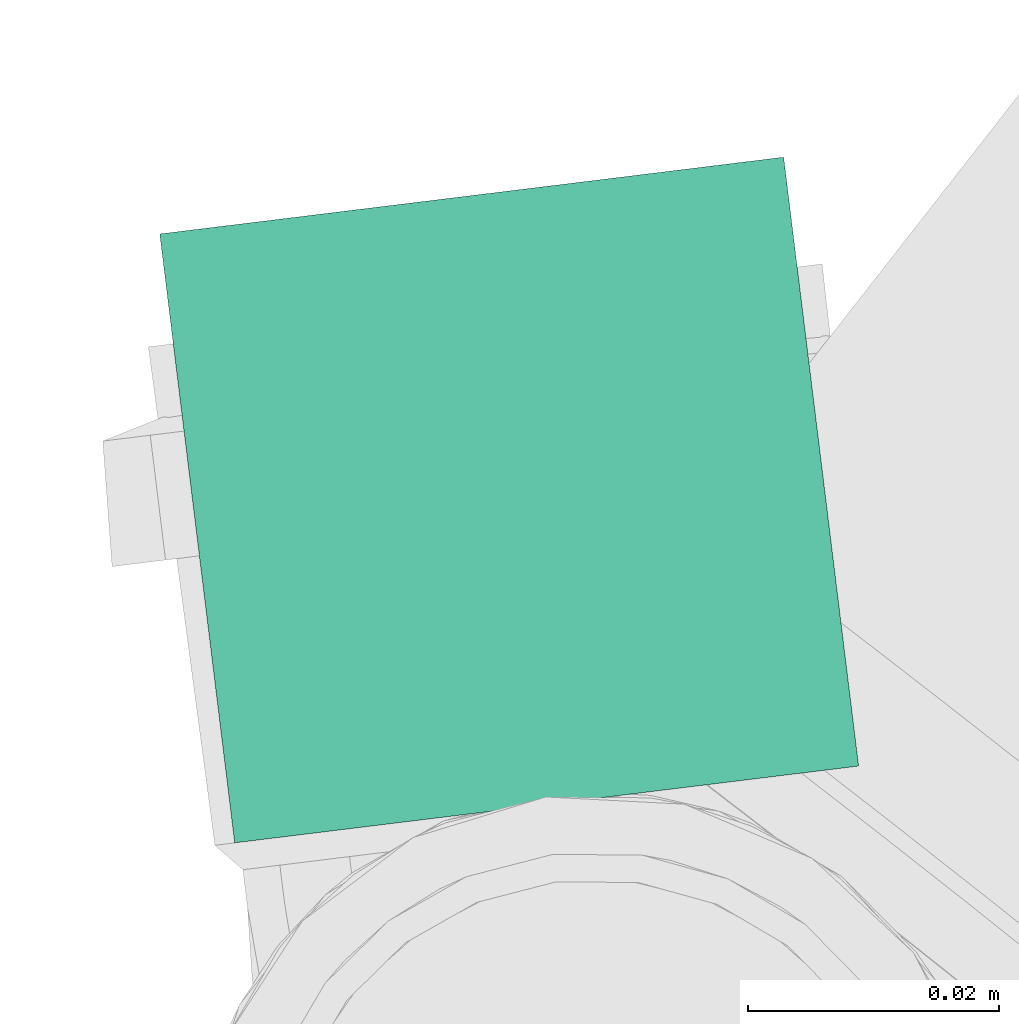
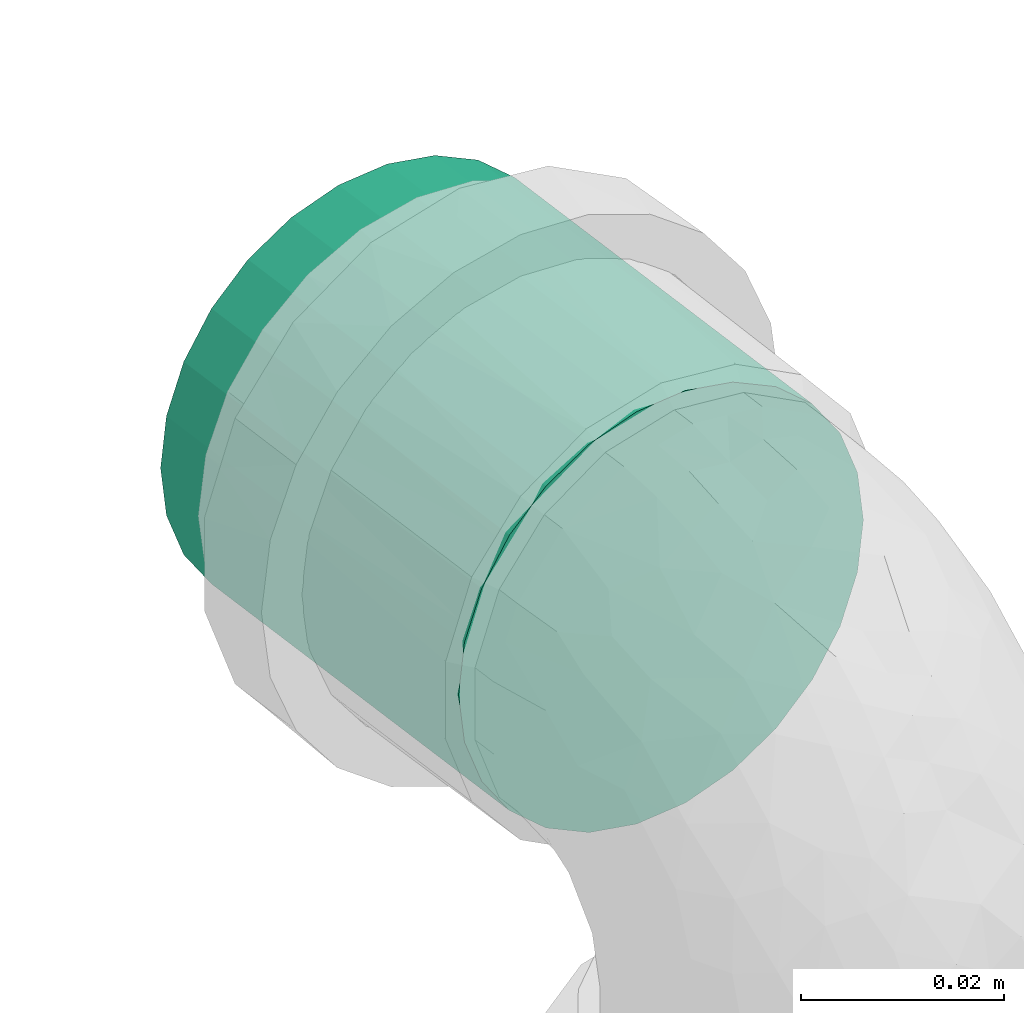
# One storey, part 78 of 97: 1 flow segment.
"""IFC2X3 building model written with IfcOpenShell, lengths in centimetres."""

import ifcopenshell
import ifcopenshell.guid

model = None  # the IFC model being written
_history = None  # IfcOwnerHistory: only IFC2X3 demands one
_inside = {}  # id of a spatial element -> (the spatial element, [elements in it])
_under = {}  # id of a project, library or spatial element -> (it, [spatial elements below it])
_declared = {}  # id of a project -> (the project, [libraries it declares])
_typed = {}  # id of a type object -> (the type object, [elements of that type])
_made_of = {}  # id of a material, layer set ... -> (it, [elements and type objects made of it])


def new_model(schema):
    """Start an empty IFC model of exactly this schema.

    Asked for "IFC4X3", IfcOpenShell would pick the latest addendum, in which some entities
    have other attributes; the version numbers below select the first issue.
    IFC2X3 requires an IfcOwnerHistory on every rooted entity: one is made here for all.
    """
    global model, _history
    if schema == "IFC4X3":
        model = ifcopenshell.file(schema_version=(4, 3, 0, 0))
    else:
        model = ifcopenshell.file(schema=schema)
    _inside.clear()
    _under.clear()
    _declared.clear()
    _typed.clear()
    _made_of.clear()
    _history = None
    if model.schema == "IFC2X3":
        org = make("IfcOrganization", Name="unknown")
        user = make(
            "IfcPersonAndOrganization",
            ThePerson=make("IfcPerson", FamilyName="unknown"),
            TheOrganization=org,
        )
        app = make(
            "IfcApplication",
            ApplicationDeveloper=org,
            Version="unknown",
            ApplicationFullName="unknown",
            ApplicationIdentifier="unknown",
        )
        _history = make(
            "IfcOwnerHistory",
            OwningUser=user,
            OwningApplication=app,
            ChangeAction="ADDED",
            CreationDate=0,
        )
    return model


def make(cls, **values):
    """One entity of the class cls with the attributes given. An attribute that is None is left unset."""
    return model.create_entity(
        cls, **{name: value for name, value in values.items() if value is not None}
    )


def entity(cls, *values):
    """Any entity or typed value of the class cls, its attributes in the order of the schema. None: left unset."""
    e = model.create_entity(cls)
    for i, value in enumerate(values):
        if value is not None:
            e[i] = value
    return e


def rooted(cls, **values):
    """An entity with a GlobalId (a new one), such as an element, a storey or a relation."""
    return make(cls, GlobalId=ifcopenshell.guid.new(), OwnerHistory=_history, **values)


def si_unit(unit_type, name, prefix=None):
    """IfcSIUnit, for example si_unit("LENGTHUNIT", "METRE", prefix="MILLI")."""
    return make("IfcSIUnit", UnitType=unit_type, Prefix=prefix, Name=name)


def converted_unit(unit_type, name, factor, base, dimensions=None, offset=None):
    """IfcConversionBasedUnit, such as the inch: factor (a typed value) times the base unit."""
    return make(
        "IfcConversionBasedUnit"
        if offset is None
        else "IfcConversionBasedUnitWithOffset",
        ConversionOffset=offset,
        Dimensions=None
        if dimensions is None
        else entity("IfcDimensionalExponents", *dimensions),
        UnitType=unit_type,
        Name=name,
        ConversionFactor=make(
            "IfcMeasureWithUnit", ValueComponent=factor, UnitComponent=base
        ),
    )


def derived_unit(unit_type, elements):
    """IfcDerivedUnit: a product of units, each with its exponent."""
    return make(
        "IfcDerivedUnit",
        Elements=[
            make("IfcDerivedUnitElement", Unit=unit, Exponent=power)
            for unit, power in elements
        ],
        UnitType=unit_type,
    )


def assignment(units):
    """IfcUnitAssignment: the units of a project."""
    return None if units is None else make("IfcUnitAssignment", Units=units)


def point(xyz):
    """IfcCartesianPoint."""
    return None if xyz is None else make("IfcCartesianPoint", Coordinates=xyz)


def direction(xyz):
    """IfcDirection."""
    return None if xyz is None else make("IfcDirection", DirectionRatios=xyz)


def frame(location, z_axis=None, x_axis=None):
    """IfcAxis2Placement3D, a coordinate frame: its origin and axes. An axis left out is left unset."""
    return make(
        "IfcAxis2Placement3D",
        Location=point(location),
        Axis=direction(z_axis),
        RefDirection=direction(x_axis),
    )


def frame_2d(location, x_axis=None):
    """IfcAxis2Placement2D, a coordinate frame in the plane: its origin and x axis."""
    return make(
        "IfcAxis2Placement2D", Location=point(location), RefDirection=direction(x_axis)
    )


def origin():
    """The frame at (0, 0, 0) with its axes left unset."""
    return frame((0.0, 0.0, 0.0))


def origin_2d_with_axis():
    """The frame at (0, 0) in the plane with the x axis (1, 0) written out."""
    return frame_2d((0.0, 0.0), x_axis=(1.0, 0.0))


def place(relative_to, where):
    """IfcLocalPlacement: puts the frame where relative to a parent placement (None: the world)."""
    return make(
        "IfcLocalPlacement", PlacementRelTo=relative_to, RelativePlacement=where
    )


def context(
    kind, dimensions, precision=None, world=None, true_north=None, identifier=None
):
    """IfcGeometricRepresentationContext, for example the 3D "Model" context."""
    return make(
        "IfcGeometricRepresentationContext",
        ContextIdentifier=identifier,
        ContextType=kind,
        CoordinateSpaceDimension=dimensions,
        Precision=precision,
        WorldCoordinateSystem=world,
        TrueNorth=true_north,
    )


def subcontext(parent, identifier, kind, view, scale=None):
    """IfcGeometricRepresentationSubContext, for example "Body" below "Model"."""
    return make(
        "IfcGeometricRepresentationSubContext",
        ContextIdentifier=identifier,
        ContextType=kind,
        ParentContext=parent,
        TargetScale=scale,
        TargetView=view,
    )


def project(units=None, contexts=None):
    """IfcProject with its units and contexts."""
    return rooted(
        "IfcProject",
        Name="project",
        RepresentationContexts=contexts,
        UnitsInContext=assignment(units),
    )


def spatial(cls, under=None, at=None, **own):
    """A site, building, storey or space (cls), placed at a placement, below another one or the project."""
    s = rooted(cls, ObjectPlacement=at, **own)
    if under is not None:
        _under.setdefault(under.id(), (under, []))[1].append(s)
    return s


def profile(cls, at=None, kind="AREA", **sizes):
    """A parametric profile (cls). Its sizes go by their IFC names, for example OverallWidth=200.0."""
    return make(cls, ProfileType=kind, Position=at, **sizes)


def circle(**sizes):
    """IfcCircleProfileDef."""
    return profile("IfcCircleProfileDef", **sizes)


def extrude(swept, where, along, depth):
    """IfcExtrudedAreaSolid: the profile swept, set in the frame where, extruded along a direction by depth."""
    return make(
        "IfcExtrudedAreaSolid",
        SweptArea=swept,
        Position=where,
        ExtrudedDirection=direction(along),
        Depth=depth,
    )


def shape(context_of_items, identifier, shape_type, items):
    """IfcShapeRepresentation: the items that make up one representation, for example the "Body"."""
    return make(
        "IfcShapeRepresentation",
        ContextOfItems=context_of_items,
        RepresentationIdentifier=identifier,
        RepresentationType=shape_type,
        Items=items,
    )


def made_of(thing, what):
    """Note that an element or type object is made of a material, layer set ...; save() writes the relation."""
    if what is not None:
        _made_of.setdefault(what.id(), (what, []))[1].append(thing)
    return thing


def type_object(cls, material=None, **own):
    """A type object (cls), such as IfcWallType, which elements share."""
    return made_of(rooted(cls, **own), material)


def element(
    cls,
    number,
    at=None,
    inside=None,
    cuts=None,
    type_object=None,
    material=None,
    context=None,
    identifier="Body",
    shape_type=None,
    held_by="IfcProductDefinitionShape",
    body=None,
    shapes=None,
    **own,
):
    """One element of the class cls, such as IfcWall. Its Tag is "e" and its number.

    at: its placement. inside: the storey or other place that contains it. cuts: it is an
    opening in that element (IfcRelVoidsElement). A single representation is given by context,
    identifier, shape_type and body (its items); several are given by shapes. held_by: the class
    of the entity that holds the representations. save() writes the other relations.
    """
    e = rooted(cls, Tag="e%d" % number, ObjectPlacement=at, **own)
    if body is not None:
        shapes = [shape(context, identifier, shape_type, body)]
    if shapes is not None:
        e.Representation = make(held_by, Representations=shapes)
    if inside is not None:
        _inside.setdefault(inside.id(), (inside, []))[1].append(e)
    if cuts is not None:
        rooted(
            "IfcRelVoidsElement", RelatingBuildingElement=cuts, RelatedOpeningElement=e
        )
    if type_object is not None:
        _typed.setdefault(type_object.id(), (type_object, []))[1].append(e)
    return made_of(e, material)


def aggregate(whole, parts):
    """IfcRelAggregates: a whole, such as a stair, and the parts it consists of."""
    return rooted("IfcRelAggregates", RelatingObject=whole, RelatedObjects=parts)


def save(model, path):
    """Write the relations noted so far, then the file.

    IfcRelAggregates (storeys below a building ...), IfcRelContainedInSpatialStructure (elements
    in a storey), IfcRelDefinesByType, IfcRelAssociatesMaterial and IfcRelDeclares: one each for
    every whole, place, type object, material and project.
    """
    for whole, parts in _under.values():
        aggregate(whole, parts)
    for where, things in _inside.values():
        rooted(
            "IfcRelContainedInSpatialStructure",
            RelatedElements=things,
            RelatingStructure=where,
        )
    for kind, things in _typed.values():
        rooted("IfcRelDefinesByType", RelatedObjects=things, RelatingType=kind)
    for what, things in _made_of.values():
        rooted("IfcRelAssociatesMaterial", RelatedObjects=things, RelatingMaterial=what)
    for by, libraries in _declared.values():
        rooted("IfcRelDeclares", RelatingContext=by, RelatedDefinitions=libraries)
    model.write(path)


model = new_model("IFC2X3")

# Units and contexts
model_context = context("Model", 3, precision=0.001, world=origin(), true_north=direction((6.12303176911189e-17, 1.0)))
body_context = subcontext(model_context, "Body", "Model", "MODEL_VIEW")
ifc_project = project(units=[si_unit("LENGTHUNIT", "METRE", prefix="CENTI"), si_unit("AREAUNIT", "SQUARE_METRE"), si_unit("VOLUMEUNIT", "CUBIC_METRE"), converted_unit("PLANEANGLEUNIT", "DEGREE", entity("IfcRatioMeasure", 0.0174532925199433), si_unit("PLANEANGLEUNIT", "RADIAN"), dimensions=[0, 0, 0, 0, 0, 0, 0]), si_unit("MASSUNIT", "GRAM", prefix="KILO"), derived_unit("MASSDENSITYUNIT", [(si_unit("MASSUNIT", "GRAM", prefix="KILO"), 1), (si_unit("LENGTHUNIT", "METRE"), -3)]), derived_unit("MOMENTOFINERTIAUNIT", [(si_unit("LENGTHUNIT", "METRE"), 4)]), si_unit("TIMEUNIT", "SECOND"), si_unit("FREQUENCYUNIT", "HERTZ"), si_unit("THERMODYNAMICTEMPERATUREUNIT", "DEGREE_CELSIUS"), derived_unit("THERMALTRANSMITTANCEUNIT", [(si_unit("MASSUNIT", "GRAM", prefix="KILO"), 1), (si_unit("THERMODYNAMICTEMPERATUREUNIT", "KELVIN"), -1), (si_unit("TIMEUNIT", "SECOND"), -3)]), derived_unit("VOLUMETRICFLOWRATEUNIT", [(si_unit("LENGTHUNIT", "METRE"), 3), (si_unit("TIMEUNIT", "SECOND"), -1)]), si_unit("ELECTRICCURRENTUNIT", "AMPERE"), si_unit("ELECTRICVOLTAGEUNIT", "VOLT"), si_unit("POWERUNIT", "WATT"), si_unit("FORCEUNIT", "NEWTON", prefix="KILO"), si_unit("ILLUMINANCEUNIT", "LUX"), si_unit("LUMINOUSFLUXUNIT", "LUMEN"), si_unit("LUMINOUSINTENSITYUNIT", "CANDELA"), derived_unit("USERDEFINED", [(si_unit("MASSUNIT", "GRAM", prefix="KILO"), -1), (si_unit("LENGTHUNIT", "METRE"), -2), (si_unit("TIMEUNIT", "SECOND"), 3), (si_unit("LUMINOUSFLUXUNIT", "LUMEN"), 1)]), derived_unit("LINEARVELOCITYUNIT", [(si_unit("LENGTHUNIT", "METRE"), 1), (si_unit("TIMEUNIT", "SECOND"), -1)]), si_unit("PRESSUREUNIT", "PASCAL"), derived_unit("USERDEFINED", [(si_unit("LENGTHUNIT", "METRE"), -2), (si_unit("MASSUNIT", "GRAM", prefix="KILO"), 1), (si_unit("TIMEUNIT", "SECOND"), -2)]), derived_unit("LINEARFORCEUNIT", [(si_unit("MASSUNIT", "GRAM", prefix="KILO"), 1), (si_unit("LENGTHUNIT", "METRE"), 1), (si_unit("TIMEUNIT", "SECOND"), -2), (si_unit("LENGTHUNIT", "METRE"), -1)]), derived_unit("PLANARFORCEUNIT", [(si_unit("MASSUNIT", "GRAM", prefix="KILO"), 1), (si_unit("LENGTHUNIT", "METRE"), 1), (si_unit("TIMEUNIT", "SECOND"), -2), (si_unit("LENGTHUNIT", "METRE"), -2)])], contexts=[model_context])

# Site, building, storey
site_placement = place(None, origin())
site = spatial("IfcSite", under=ifc_project, at=site_placement, Name="Default", CompositionType="ELEMENT")
building_placement = place(site_placement, origin())
building = spatial("IfcBuilding", under=site, at=building_placement, Name="HIDROSSANITÁRIO", CompositionType="ELEMENT")
storey_placement = place(building_placement, frame((0.0, 0.0, -260.0)))
storey = spatial("IfcBuildingStorey", under=building, at=storey_placement, Name="TÉRREO-HID", CompositionType="ELEMENT", Elevation=-260.0)

# Flow segment
pipe_segment_type = type_object("IfcPipeSegmentType", Name="Tipos de tubos:Tubo - Esgoto - Série Normal", PredefinedType="NOTDEFINED")
flow_segment_placement = place(storey_placement, origin())
element("IfcFlowSegment", 1, at=flow_segment_placement, inside=storey, type_object=pipe_segment_type, Name="Tipos de tubos:Tubo - Esgoto - Série Normal", ObjectType="Tipos de tubos:Tubo - Esgoto - Série Normal", context=body_context, shape_type="SweptSolid", body=[
    extrude(circle(Radius=2.5, at=origin_2d_with_axis()), frame((-665.680820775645, 2983.6169210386, 50.0), z_axis=(-0.122152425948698, 0.99251135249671, 0.0), x_axis=(-0.99251135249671, -0.122152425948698, 0.0)), (0.0, 0.0, 1.0), 4.88000000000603),
])

save(model, "model.ifc")
